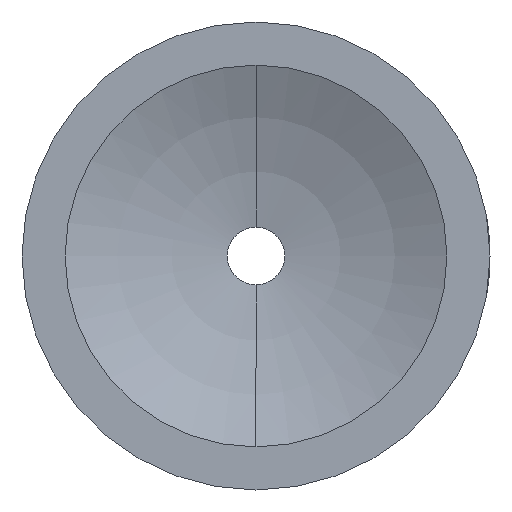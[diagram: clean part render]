
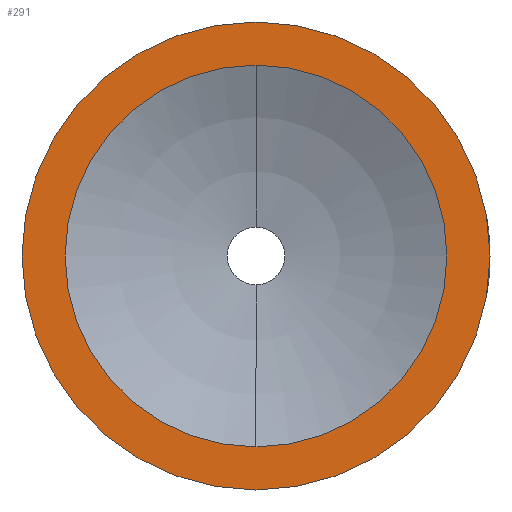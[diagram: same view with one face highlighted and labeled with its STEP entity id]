
A CAD part, left-side view. The second image highlights one B-rep face of the part: STEP entity #291.
In plain terms, the highlighted planar face has unit normal (-1, 0, 0).
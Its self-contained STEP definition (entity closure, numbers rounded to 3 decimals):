
#15 = AXIS2_PLACEMENT_3D ( 'NONE', #155, #160, #166 ) ;
#24 = CARTESIAN_POINT ( 'NONE',  ( 0., 0., 0. ) ) ;
#30 = AXIS2_PLACEMENT_3D ( 'NONE', #146, #272, #263 ) ;
#31 = DIRECTION ( 'NONE',  ( -1., 0., 0. ) ) ;
#34 = CARTESIAN_POINT ( 'NONE',  ( 0., 0., 0. ) ) ;
#36 = DIRECTION ( 'NONE',  ( -1., 0., 0. ) ) ;
#66 = CIRCLE ( 'NONE', #256, 15.5 ) ;
#70 = DIRECTION ( 'NONE',  ( 0., 0., 1. ) ) ;
#89 = CIRCLE ( 'NONE', #15, 19. ) ;
#106 = FACE_OUTER_BOUND ( 'NONE', #326, .T. ) ;
#111 = VERTEX_POINT ( 'NONE', #145 ) ;
#144 = FACE_BOUND ( 'NONE', #311, .T. ) ;
#145 = CARTESIAN_POINT ( 'NONE',  ( 0., 0., -15.5 ) ) ;
#146 = CARTESIAN_POINT ( 'NONE',  ( 0., 0., 0. ) ) ;
#155 = CARTESIAN_POINT ( 'NONE',  ( 0., 0., 0. ) ) ;
#160 = DIRECTION ( 'NONE',  ( -1., 0., 0. ) ) ;
#166 = DIRECTION ( 'NONE',  ( 0., 0., 1. ) ) ;
#206 = DIRECTION ( 'NONE',  ( 0., 0., 1. ) ) ;
#210 = CIRCLE ( 'NONE', #230, 15.5 ) ;
#230 = AXIS2_PLACEMENT_3D ( 'NONE', #34, #36, #70 ) ;
#243 = ORIENTED_EDGE ( 'NONE', *, *, #525, .T. ) ;
#247 = AXIS2_PLACEMENT_3D ( 'NONE', #345, #417, #423 ) ;
#256 = AXIS2_PLACEMENT_3D ( 'NONE', #24, #31, #206 ) ;
#259 = ORIENTED_EDGE ( 'NONE', *, *, #339, .F. ) ;
#263 = DIRECTION ( 'NONE',  ( 0., 0., 1. ) ) ;
#265 = CARTESIAN_POINT ( 'NONE',  ( 0., 0., 19. ) ) ;
#272 = DIRECTION ( 'NONE',  ( -1., 0., 0. ) ) ;
#273 = CARTESIAN_POINT ( 'NONE',  ( 0., 0., 15.5 ) ) ;
#279 = CIRCLE ( 'NONE', #30, 19. ) ;
#283 = ORIENTED_EDGE ( 'NONE', *, *, #330, .F. ) ;
#291 = ADVANCED_FACE ( 'NONE', ( #144, #106 ), #378, .F. ) ;
#311 = EDGE_LOOP ( 'NONE', ( #259, #283 ) ) ;
#326 = EDGE_LOOP ( 'NONE', ( #243, #347 ) ) ;
#330 = EDGE_CURVE ( 'NONE', #111, #487, #66, .T. ) ;
#339 = EDGE_CURVE ( 'NONE', #487, #111, #210, .T. ) ;
#345 = CARTESIAN_POINT ( 'NONE',  ( 0., 2.25, 0. ) ) ;
#347 = ORIENTED_EDGE ( 'NONE', *, *, #534, .T. ) ;
#378 = PLANE ( 'NONE',  #247 ) ;
#417 = DIRECTION ( 'NONE',  ( 1., 0., 0. ) ) ;
#423 = DIRECTION ( 'NONE',  ( 0., 0., -1. ) ) ;
#425 = VERTEX_POINT ( 'NONE', #265 ) ;
#461 = VERTEX_POINT ( 'NONE', #541 ) ;
#487 = VERTEX_POINT ( 'NONE', #273 ) ;
#525 = EDGE_CURVE ( 'NONE', #425, #461, #279, .T. ) ;
#534 = EDGE_CURVE ( 'NONE', #461, #425, #89, .T. ) ;
#541 = CARTESIAN_POINT ( 'NONE',  ( 0., 0., -19. ) ) ;
